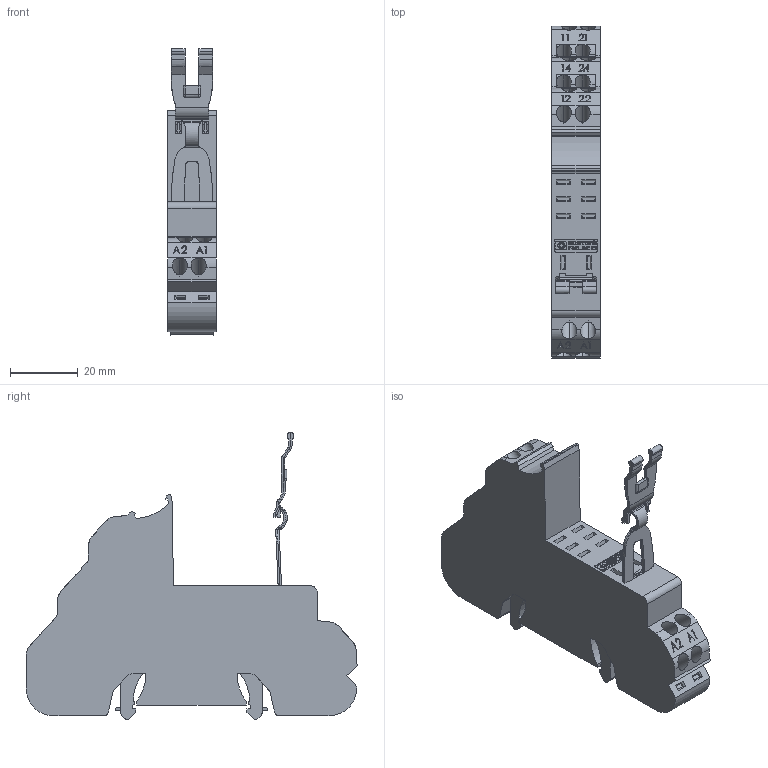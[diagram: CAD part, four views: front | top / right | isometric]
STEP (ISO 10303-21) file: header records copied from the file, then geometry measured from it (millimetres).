
FILE_DESCRIPTION (( 'STEP AP214' ), '1' );
FILE_NAME ('S12-PI.STEP', '2024-04-09T10:45:07', ( '' ), ( '' ), 'SwSTEP 2.0', 'SolidWorks 2022', '' );
FILE_SCHEMA (( 'AUTOMOTIVE_DESIGN' ));
Length unit declared in the file: millimetre
Products named in the file (1): S12-PI
Bounding box: 14.4 x 97.75 x 84.49 mm (x, y, z)
Volume: 50789.4 mm3; surface area: 17115.7 mm2
Topology: 1 solids, 1 shells, 840 faces, 2291 edges, 1504 vertices
Faces by surface type: plane 541, bspline 169, cylinder 122, cone 8
Entity records: 37831 total; most frequent: CARTESIAN_POINT 10785, ORIENTED_EDGE 4582, DIRECTION 3241, EDGE_CURVE 2291, LINE 1605, VECTOR 1605, VERTEX_POINT 1504, EDGE_LOOP 893
